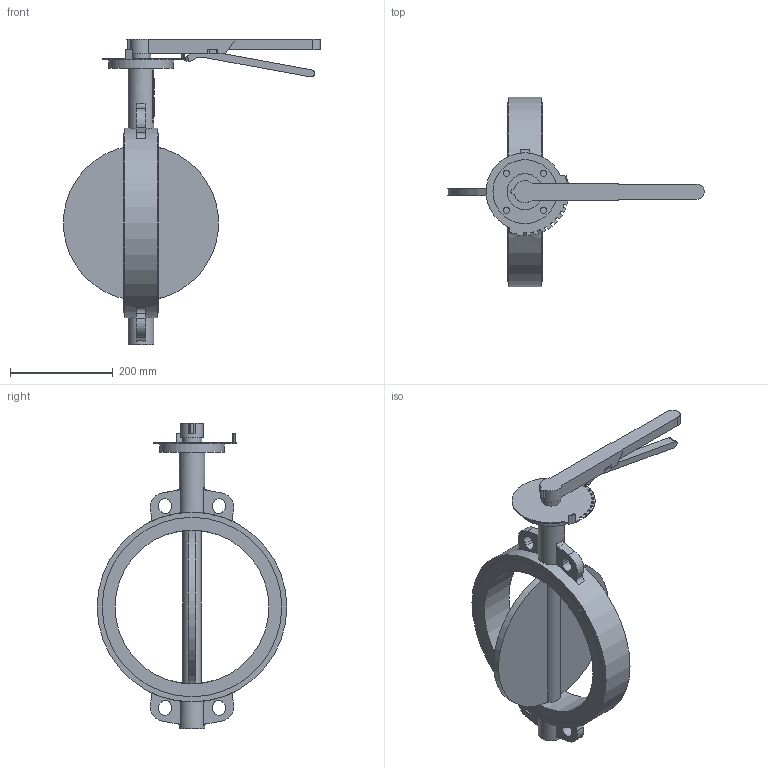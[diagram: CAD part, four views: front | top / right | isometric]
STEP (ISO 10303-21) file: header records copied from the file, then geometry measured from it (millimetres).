
FILE_DESCRIPTION(('STEP AP203'), '1');
FILE_NAME('青蜮铕 015WDN300', '', ('UNSPECIFIED'), ('UNSPECIFIED'), 'ASCON STEP Converter 1.6', 'ASCON Math Kernel', '');
FILE_SCHEMA(('CONFIG_CONTROL_DESIGN'));
Length unit declared in the file: millimetre
Bounding box: 500.97 x 370 x 595 mm (x, y, z)
Volume: 392465.6 mm3; surface area: 556078.5 mm2
Topology: 1 solids, 2 shells, 807 faces, 2382 edges, 1541 vertices
Faces by surface type: cylinder 555, plane 246, bspline 6
Full cylindrical faces by diameter (mm): 12 x4, 31.6 x1, 38 x1, 50 x2, 70 x1, 125 x1, 300 x1, 350 x2, 370 x1
Entity records: 35436 total; most frequent: CARTESIAN_POINT 6403, DIRECTION 5101, ORIENTED_EDGE 4675, EDGE_CURVE 2369, AXIS2_PLACEMENT_3D 1968, VERTEX_POINT 1541, CIRCLE 1166, LINE 1165
